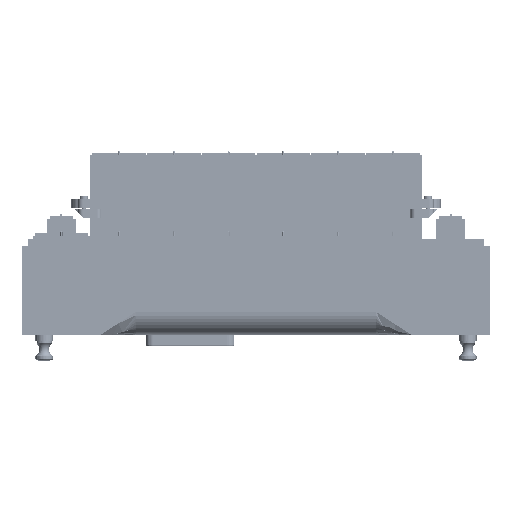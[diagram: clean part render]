
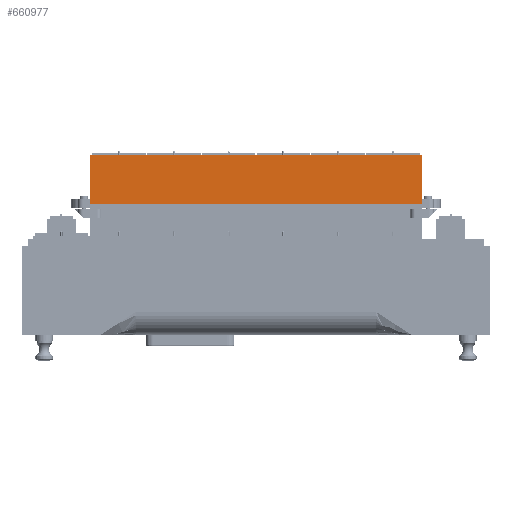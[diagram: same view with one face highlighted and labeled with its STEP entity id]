
A CAD part, front view. The second image highlights one B-rep face of the part: STEP entity #660977.
In plain terms, the highlighted planar face has unit normal (0, -1, 0).
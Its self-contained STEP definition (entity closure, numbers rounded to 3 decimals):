
#660977 = ADVANCED_FACE('',(#660978),#660992,.T.);
#660978 = FACE_BOUND('',#660979,.F.);
#660979 = EDGE_LOOP('',(#660980,#661015,#661043,#661071));
#660980 = ORIENTED_EDGE('',*,*,#660981,.T.);
#660981 = EDGE_CURVE('',#660982,#660984,#660986,.T.);
#660982 = VERTEX_POINT('',#660983);
#660983 = CARTESIAN_POINT('',(343.7,51.5,112.));
#660984 = VERTEX_POINT('',#660985);
#660985 = CARTESIAN_POINT('',(58.2,51.5,112.));
#660986 = SURFACE_CURVE('',#660987,(#660991,#661003),.PCURVE_S1.);
#660987 = LINE('',#660988,#660989);
#660988 = CARTESIAN_POINT('',(343.7,51.5,112.));
#660989 = VECTOR('',#660990,1.);
#660990 = DIRECTION('',(-1.,-0.,-0.));
#660991 = PCURVE('',#660992,#660997);
#660992 = PLANE('',#660993);
#660993 = AXIS2_PLACEMENT_3D('',#660994,#660995,#660996);
#660994 = CARTESIAN_POINT('',(343.7,51.5,112.));
#660995 = DIRECTION('',(-0.,-1.,-0.));
#660996 = DIRECTION('',(0.,0.,-1.));
#660997 = DEFINITIONAL_REPRESENTATION('',(#660998),#661002);
#660998 = LINE('',#660999,#661000);
#660999 = CARTESIAN_POINT('',(-0.,0.));
#661000 = VECTOR('',#661001,1.);
#661001 = DIRECTION('',(-0.,-1.));
#661002 = ( GEOMETRIC_REPRESENTATION_CONTEXT(2) 
PARAMETRIC_REPRESENTATION_CONTEXT() REPRESENTATION_CONTEXT('2D SPACE',''
  ) );
#661003 = PCURVE('',#661004,#661009);
#661004 = PLANE('',#661005);
#661005 = AXIS2_PLACEMENT_3D('',#661006,#661007,#661008);
#661006 = CARTESIAN_POINT('',(343.7,57.5,112.));
#661007 = DIRECTION('',(-0.,-0.,-1.));
#661008 = DIRECTION('',(0.,1.,0.));
#661009 = DEFINITIONAL_REPRESENTATION('',(#661010),#661014);
#661010 = LINE('',#661011,#661012);
#661011 = CARTESIAN_POINT('',(-6.,0.));
#661012 = VECTOR('',#661013,1.);
#661013 = DIRECTION('',(-0.,-1.));
#661014 = ( GEOMETRIC_REPRESENTATION_CONTEXT(2) 
PARAMETRIC_REPRESENTATION_CONTEXT() REPRESENTATION_CONTEXT('2D SPACE',''
  ) );
#661015 = ORIENTED_EDGE('',*,*,#661016,.T.);
#661016 = EDGE_CURVE('',#660984,#661017,#661019,.T.);
#661017 = VERTEX_POINT('',#661018);
#661018 = CARTESIAN_POINT('',(58.2,51.5,154.));
#661019 = SURFACE_CURVE('',#661020,(#661024,#661031),.PCURVE_S1.);
#661020 = LINE('',#661021,#661022);
#661021 = CARTESIAN_POINT('',(58.2,51.5,112.));
#661022 = VECTOR('',#661023,1.);
#661023 = DIRECTION('',(-0.,-0.,1.));
#661024 = PCURVE('',#660992,#661025);
#661025 = DEFINITIONAL_REPRESENTATION('',(#661026),#661030);
#661026 = LINE('',#661027,#661028);
#661027 = CARTESIAN_POINT('',(-0.,-285.5));
#661028 = VECTOR('',#661029,1.);
#661029 = DIRECTION('',(-1.,0.));
#661030 = ( GEOMETRIC_REPRESENTATION_CONTEXT(2) 
PARAMETRIC_REPRESENTATION_CONTEXT() REPRESENTATION_CONTEXT('2D SPACE',''
  ) );
#661031 = PCURVE('',#661032,#661037);
#661032 = PLANE('',#661033);
#661033 = AXIS2_PLACEMENT_3D('',#661034,#661035,#661036);
#661034 = CARTESIAN_POINT('',(58.2,54.5,133.));
#661035 = DIRECTION('',(1.,-0.,-0.));
#661036 = DIRECTION('',(0.,0.,1.));
#661037 = DEFINITIONAL_REPRESENTATION('',(#661038),#661042);
#661038 = LINE('',#661039,#661040);
#661039 = CARTESIAN_POINT('',(-21.,3.));
#661040 = VECTOR('',#661041,1.);
#661041 = DIRECTION('',(1.,-0.));
#661042 = ( GEOMETRIC_REPRESENTATION_CONTEXT(2) 
PARAMETRIC_REPRESENTATION_CONTEXT() REPRESENTATION_CONTEXT('2D SPACE',''
  ) );
#661043 = ORIENTED_EDGE('',*,*,#661044,.F.);
#661044 = EDGE_CURVE('',#661045,#661017,#661047,.T.);
#661045 = VERTEX_POINT('',#661046);
#661046 = CARTESIAN_POINT('',(343.7,51.5,154.));
#661047 = SURFACE_CURVE('',#661048,(#661052,#661059),.PCURVE_S1.);
#661048 = LINE('',#661049,#661050);
#661049 = CARTESIAN_POINT('',(343.7,51.5,154.));
#661050 = VECTOR('',#661051,1.);
#661051 = DIRECTION('',(-1.,-0.,-0.));
#661052 = PCURVE('',#660992,#661053);
#661053 = DEFINITIONAL_REPRESENTATION('',(#661054),#661058);
#661054 = LINE('',#661055,#661056);
#661055 = CARTESIAN_POINT('',(-42.,0.));
#661056 = VECTOR('',#661057,1.);
#661057 = DIRECTION('',(-0.,-1.));
#661058 = ( GEOMETRIC_REPRESENTATION_CONTEXT(2) 
PARAMETRIC_REPRESENTATION_CONTEXT() REPRESENTATION_CONTEXT('2D SPACE',''
  ) );
#661059 = PCURVE('',#661060,#661065);
#661060 = PLANE('',#661061);
#661061 = AXIS2_PLACEMENT_3D('',#661062,#661063,#661064);
#661062 = CARTESIAN_POINT('',(343.7,51.5,154.));
#661063 = DIRECTION('',(-0.,-0.,1.));
#661064 = DIRECTION('',(0.,-1.,0.));
#661065 = DEFINITIONAL_REPRESENTATION('',(#661066),#661070);
#661066 = LINE('',#661067,#661068);
#661067 = CARTESIAN_POINT('',(-0.,0.));
#661068 = VECTOR('',#661069,1.);
#661069 = DIRECTION('',(-0.,-1.));
#661070 = ( GEOMETRIC_REPRESENTATION_CONTEXT(2) 
PARAMETRIC_REPRESENTATION_CONTEXT() REPRESENTATION_CONTEXT('2D SPACE',''
  ) );
#661071 = ORIENTED_EDGE('',*,*,#661072,.F.);
#661072 = EDGE_CURVE('',#660982,#661045,#661073,.T.);
#661073 = SURFACE_CURVE('',#661074,(#661078,#661085),.PCURVE_S1.);
#661074 = LINE('',#661075,#661076);
#661075 = CARTESIAN_POINT('',(343.7,51.5,112.));
#661076 = VECTOR('',#661077,1.);
#661077 = DIRECTION('',(-0.,-0.,1.));
#661078 = PCURVE('',#660992,#661079);
#661079 = DEFINITIONAL_REPRESENTATION('',(#661080),#661084);
#661080 = LINE('',#661081,#661082);
#661081 = CARTESIAN_POINT('',(-0.,0.));
#661082 = VECTOR('',#661083,1.);
#661083 = DIRECTION('',(-1.,0.));
#661084 = ( GEOMETRIC_REPRESENTATION_CONTEXT(2) 
PARAMETRIC_REPRESENTATION_CONTEXT() REPRESENTATION_CONTEXT('2D SPACE',''
  ) );
#661085 = PCURVE('',#661086,#661091);
#661086 = PLANE('',#661087);
#661087 = AXIS2_PLACEMENT_3D('',#661088,#661089,#661090);
#661088 = CARTESIAN_POINT('',(343.7,54.5,133.));
#661089 = DIRECTION('',(1.,-0.,-0.));
#661090 = DIRECTION('',(0.,0.,1.));
#661091 = DEFINITIONAL_REPRESENTATION('',(#661092),#661096);
#661092 = LINE('',#661093,#661094);
#661093 = CARTESIAN_POINT('',(-21.,3.));
#661094 = VECTOR('',#661095,1.);
#661095 = DIRECTION('',(1.,-0.));
#661096 = ( GEOMETRIC_REPRESENTATION_CONTEXT(2) 
PARAMETRIC_REPRESENTATION_CONTEXT() REPRESENTATION_CONTEXT('2D SPACE',''
  ) );
